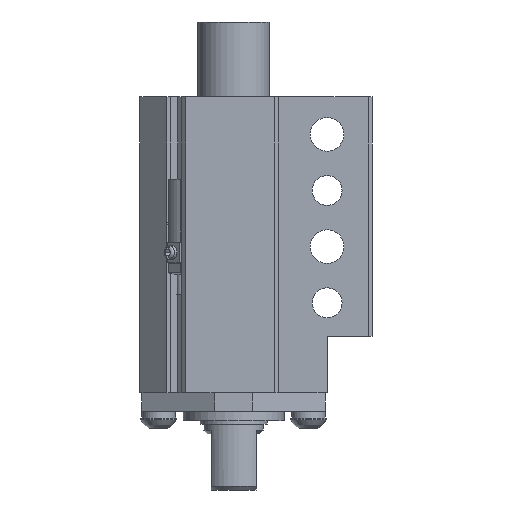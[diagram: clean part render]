
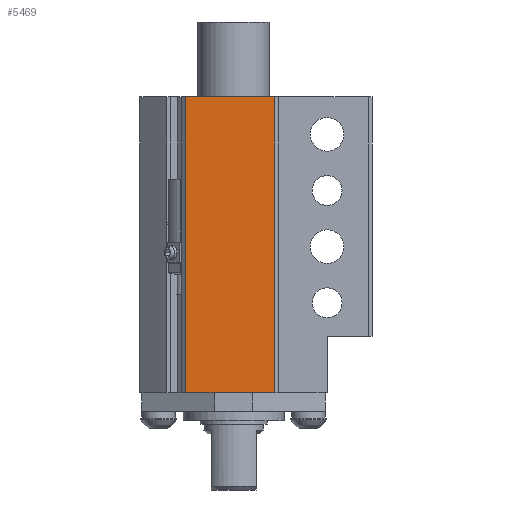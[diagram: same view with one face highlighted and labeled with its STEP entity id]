
A CAD part, front view. The second image highlights one B-rep face of the part: STEP entity #5469.
In plain terms, the highlighted planar face has unit normal (0, -1, 0).
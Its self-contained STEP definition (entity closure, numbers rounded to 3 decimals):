
#450=PLANE('',#6167);
#712=FACE_OUTER_BOUND('',#1017,.T.);
#1017=EDGE_LOOP('',(#4825,#4826,#4827,#4828));
#1515=LINE('',#9384,#2019);
#1521=LINE('',#9395,#2025);
#1524=LINE('',#9401,#2028);
#1525=LINE('',#9402,#2029);
#2019=VECTOR('',#7453,10.);
#2025=VECTOR('',#7463,10.);
#2028=VECTOR('',#7468,10.);
#2029=VECTOR('',#7469,10.);
#2748=VERTEX_POINT('',#9381);
#2749=VERTEX_POINT('',#9383);
#2752=VERTEX_POINT('',#9394);
#2754=VERTEX_POINT('',#9400);
#3467=EDGE_CURVE('',#2748,#2749,#1515,.T.);
#3473=EDGE_CURVE('',#2749,#2752,#1521,.T.);
#3476=EDGE_CURVE('',#2748,#2754,#1524,.T.);
#3477=EDGE_CURVE('',#2752,#2754,#1525,.T.);
#4825=ORIENTED_EDGE('',*,*,#3473,.F.);
#4826=ORIENTED_EDGE('',*,*,#3467,.F.);
#4827=ORIENTED_EDGE('',*,*,#3476,.T.);
#4828=ORIENTED_EDGE('',*,*,#3477,.F.);
#5469=ADVANCED_FACE('',(#712),#450,.T.);
#6167=AXIS2_PLACEMENT_3D('',#9399,#7466,#7467);
#7453=DIRECTION('',(1.,0.,0.));
#7463=DIRECTION('',(0.,0.,-1.));
#7466=DIRECTION('center_axis',(0.,-1.,0.));
#7467=DIRECTION('ref_axis',(1.,0.,0.));
#7468=DIRECTION('',(0.,0.,-1.));
#7469=DIRECTION('',(-1.,0.,0.));
#9381=CARTESIAN_POINT('',(-12.77,-19.05,79.));
#9383=CARTESIAN_POINT('',(11.,-19.05,79.));
#9384=CARTESIAN_POINT('',(37.,-19.05,79.));
#9394=CARTESIAN_POINT('',(11.,-19.05,0.));
#9395=CARTESIAN_POINT('',(11.,-19.05,0.));
#9399=CARTESIAN_POINT('Origin',(-25.,-19.05,0.));
#9400=CARTESIAN_POINT('',(-12.77,-19.05,0.));
#9401=CARTESIAN_POINT('',(-12.77,-19.05,0.));
#9402=CARTESIAN_POINT('',(37.,-19.05,0.));
